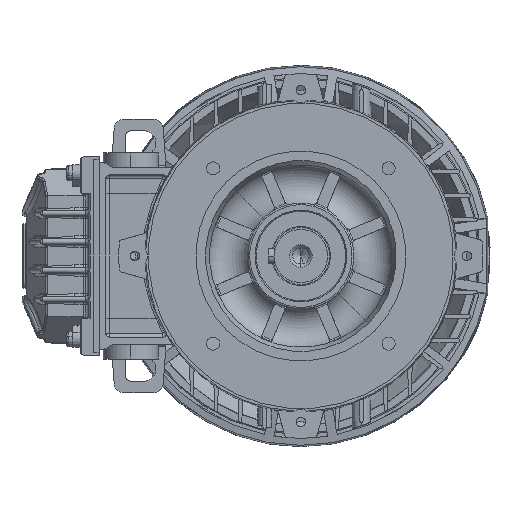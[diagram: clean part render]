
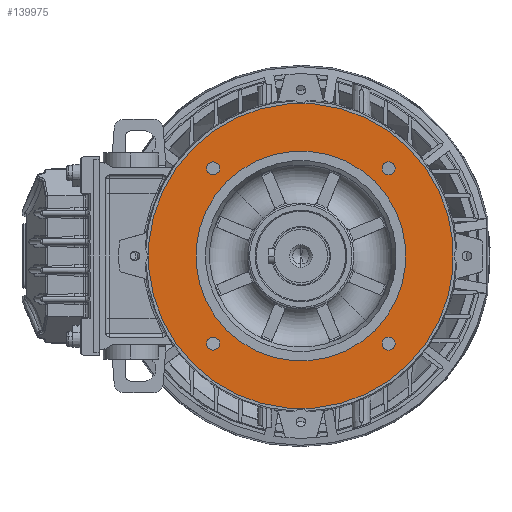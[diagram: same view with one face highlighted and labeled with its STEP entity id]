
A CAD part, left-side view. The second image highlights one B-rep face of the part: STEP entity #139975.
In plain terms, the highlighted planar face has unit normal (-1, 0, 0) as drawn and (0, 1, 0) by its records, which use the part's own axes.
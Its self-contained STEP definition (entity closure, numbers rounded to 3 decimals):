
#177 = VERTEX_POINT ( 'NONE', #18733 ) ;
#552 = CARTESIAN_POINT ( 'NONE',  ( -65., 44., 0. ) ) ;
#1836 = DIRECTION ( 'NONE',  ( 0., 1., 0. ) ) ;
#4132 = EDGE_CURVE ( 'NONE', #163591, #60480, #131373, .T. ) ;
#4499 = DIRECTION ( 'NONE',  ( 0., 0., 1. ) ) ;
#4687 = AXIS2_PLACEMENT_3D ( 'NONE', #47603, #137074, #60374 ) ;
#4785 = EDGE_LOOP ( 'NONE', ( #61782, #163298 ) ) ;
#5022 = FACE_BOUND ( 'NONE', #164887, .T. ) ;
#7217 = VERTEX_POINT ( 'NONE', #81614 ) ;
#7644 = EDGE_CURVE ( 'NONE', #7217, #163062, #157626, .T. ) ;
#8340 = DIRECTION ( 'NONE',  ( 0., 0., 1. ) ) ;
#8525 = CIRCLE ( 'NONE', #108342, 3.4 ) ;
#8664 = DIRECTION ( 'NONE',  ( 0., 0., 1. ) ) ;
#8821 = AXIS2_PLACEMENT_3D ( 'NONE', #58331, #147776, #71114 ) ;
#11698 = AXIS2_PLACEMENT_3D ( 'NONE', #66955, #156406, #79804 ) ;
#12395 = EDGE_LOOP ( 'NONE', ( #38095, #56122 ) ) ;
#13335 = DIRECTION ( 'NONE',  ( 0., 0., -1. ) ) ;
#15032 = AXIS2_PLACEMENT_3D ( 'NONE', #150493, #99578, #23101 ) ;
#18733 = CARTESIAN_POINT ( 'NONE',  ( 0., 44., 68.4 ) ) ;
#20343 = CARTESIAN_POINT ( 'NONE',  ( 65., 44., 0. ) ) ;
#20596 = VERTEX_POINT ( 'NONE', #87573 ) ;
#23084 = VERTEX_POINT ( 'NONE', #32377 ) ;
#23101 = DIRECTION ( 'NONE',  ( 0., 0., -1. ) ) ;
#25795 = ORIENTED_EDGE ( 'NONE', *, *, #98299, .F. ) ;
#29108 = ORIENTED_EDGE ( 'NONE', *, *, #137514, .T. ) ;
#32377 = CARTESIAN_POINT ( 'NONE',  ( -65., 44., 3.4 ) ) ;
#32592 = VERTEX_POINT ( 'NONE', #121200 ) ;
#33094 = CIRCLE ( 'NONE', #159216, 55. ) ;
#33192 = DIRECTION ( 'NONE',  ( 0., 0., -1. ) ) ;
#38095 = ORIENTED_EDGE ( 'NONE', *, *, #144108, .T. ) ;
#38479 = CIRCLE ( 'NONE', #104986, 55. ) ;
#38951 = FACE_BOUND ( 'NONE', #12395, .T. ) ;
#43769 = ORIENTED_EDGE ( 'NONE', *, *, #136094, .T. ) ;
#47603 = CARTESIAN_POINT ( 'NONE',  ( 0., 44., -65. ) ) ;
#47721 = CARTESIAN_POINT ( 'NONE',  ( 65., 44., -3.4 ) ) ;
#48214 = PLANE ( 'NONE',  #15032 ) ;
#48686 = CARTESIAN_POINT ( 'NONE',  ( 0., 44., 65. ) ) ;
#51153 = CARTESIAN_POINT ( 'NONE',  ( 65., 44., 0. ) ) ;
#51846 = CIRCLE ( 'NONE', #8821, 3.4 ) ;
#51996 = ORIENTED_EDGE ( 'NONE', *, *, #55882, .T. ) ;
#55882 = EDGE_CURVE ( 'NONE', #85455, #177, #8525, .T. ) ;
#56122 = ORIENTED_EDGE ( 'NONE', *, *, #112952, .T. ) ;
#56406 = EDGE_CURVE ( 'NONE', #70980, #20596, #68300, .T. ) ;
#58016 = VERTEX_POINT ( 'NONE', #66913 ) ;
#58331 = CARTESIAN_POINT ( 'NONE',  ( 0., 44., 65. ) ) ;
#60374 = DIRECTION ( 'NONE',  ( 0., 0., -1. ) ) ;
#60410 = CIRCLE ( 'NONE', #110699, 3.4 ) ;
#60480 = VERTEX_POINT ( 'NONE', #47721 ) ;
#61475 = DIRECTION ( 'NONE',  ( 0., 0., -1. ) ) ;
#61782 = ORIENTED_EDGE ( 'NONE', *, *, #56406, .T. ) ;
#63957 = DIRECTION ( 'NONE',  ( 0., 0., -1. ) ) ;
#66913 = CARTESIAN_POINT ( 'NONE',  ( 0., 44., 55. ) ) ;
#66955 = CARTESIAN_POINT ( 'NONE',  ( -65., 44., 0. ) ) ;
#67777 = ORIENTED_EDGE ( 'NONE', *, *, #7644, .T. ) ;
#68300 = CIRCLE ( 'NONE', #4687, 3.4 ) ;
#69558 = CIRCLE ( 'NONE', #11698, 3.4 ) ;
#70352 = VERTEX_POINT ( 'NONE', #95271 ) ;
#70980 = VERTEX_POINT ( 'NONE', #72609 ) ;
#71114 = DIRECTION ( 'NONE',  ( 0., 0., -1. ) ) ;
#72078 = CARTESIAN_POINT ( 'NONE',  ( 0., 44., 61.6 ) ) ;
#72293 = DIRECTION ( 'NONE',  ( 0., -1., 0. ) ) ;
#72609 = CARTESIAN_POINT ( 'NONE',  ( 0., 44., -68.4 ) ) ;
#76310 = AXIS2_PLACEMENT_3D ( 'NONE', #552, #89783, #13335 ) ;
#78219 = CARTESIAN_POINT ( 'NONE',  ( 0., 44., 0. ) ) ;
#78529 = EDGE_CURVE ( 'NONE', #20596, #70980, #60410, .T. ) ;
#79804 = DIRECTION ( 'NONE',  ( 0., 0., -1. ) ) ;
#80866 = DIRECTION ( 'NONE',  ( 0., 1., 0. ) ) ;
#81614 = CARTESIAN_POINT ( 'NONE',  ( 0., 44., -80. ) ) ;
#82477 = ORIENTED_EDGE ( 'NONE', *, *, #141377, .F. ) ;
#84719 = DIRECTION ( 'NONE',  ( 0., 1., 0. ) ) ;
#84872 = FACE_BOUND ( 'NONE', #103929, .T. ) ;
#85051 = DIRECTION ( 'NONE',  ( 0., 1., 0. ) ) ;
#85455 = VERTEX_POINT ( 'NONE', #72078 ) ;
#87573 = CARTESIAN_POINT ( 'NONE',  ( 0., 44., -61.6 ) ) ;
#89783 = DIRECTION ( 'NONE',  ( 0., -1., 0. ) ) ;
#91102 = DIRECTION ( 'NONE',  ( 0., 0., 1. ) ) ;
#92831 = ORIENTED_EDGE ( 'NONE', *, *, #4132, .T. ) ;
#93582 = AXIS2_PLACEMENT_3D ( 'NONE', #157476, #80866, #4499 ) ;
#95271 = CARTESIAN_POINT ( 'NONE',  ( 0., 44., -55. ) ) ;
#98299 = EDGE_CURVE ( 'NONE', #70352, #58016, #33094, .T. ) ;
#99578 = DIRECTION ( 'NONE',  ( 0., -1., 0. ) ) ;
#102865 = FACE_OUTER_BOUND ( 'NONE', #139146, .T. ) ;
#102916 = ORIENTED_EDGE ( 'NONE', *, *, #106299, .T. ) ;
#103929 = EDGE_LOOP ( 'NONE', ( #51996, #102916 ) ) ;
#104986 = AXIS2_PLACEMENT_3D ( 'NONE', #161666, #85051, #8664 ) ;
#106299 = EDGE_CURVE ( 'NONE', #177, #85455, #51846, .T. ) ;
#106852 = FACE_BOUND ( 'NONE', #131189, .T. ) ;
#108342 = AXIS2_PLACEMENT_3D ( 'NONE', #48686, #138147, #61475 ) ;
#109663 = DIRECTION ( 'NONE',  ( 0., -1., 0. ) ) ;
#110699 = AXIS2_PLACEMENT_3D ( 'NONE', #148951, #72293, #161768 ) ;
#112952 = EDGE_CURVE ( 'NONE', #23084, #32592, #69558, .T. ) ;
#121200 = CARTESIAN_POINT ( 'NONE',  ( -65., 44., -3.4 ) ) ;
#121375 = CARTESIAN_POINT ( 'NONE',  ( 0., 44., 80. ) ) ;
#124148 = AXIS2_PLACEMENT_3D ( 'NONE', #51153, #140624, #63957 ) ;
#129350 = AXIS2_PLACEMENT_3D ( 'NONE', #78219, #1836, #91102 ) ;
#131189 = EDGE_LOOP ( 'NONE', ( #82477, #25795 ) ) ;
#131373 = CIRCLE ( 'NONE', #124148, 3.4 ) ;
#136094 = EDGE_CURVE ( 'NONE', #60480, #163591, #153934, .T. ) ;
#136977 = FACE_BOUND ( 'NONE', #4785, .T. ) ;
#137074 = DIRECTION ( 'NONE',  ( 0., -1., 0. ) ) ;
#137514 = EDGE_CURVE ( 'NONE', #163062, #7217, #139570, .T. ) ;
#137987 = CIRCLE ( 'NONE', #76310, 3.4 ) ;
#138147 = DIRECTION ( 'NONE',  ( 0., -1., 0. ) ) ;
#139146 = EDGE_LOOP ( 'NONE', ( #29108, #67777 ) ) ;
#139570 = CIRCLE ( 'NONE', #129350, 80. ) ;
#139975 = ADVANCED_FACE ( 'NONE', ( #38951, #84872, #5022, #136977, #106852, #102865 ), #48214, .F. ) ;
#140624 = DIRECTION ( 'NONE',  ( 0., -1., 0. ) ) ;
#141377 = EDGE_CURVE ( 'NONE', #58016, #70352, #38479, .T. ) ;
#144108 = EDGE_CURVE ( 'NONE', #32592, #23084, #137987, .T. ) ;
#147776 = DIRECTION ( 'NONE',  ( 0., -1., 0. ) ) ;
#148951 = CARTESIAN_POINT ( 'NONE',  ( 0., 44., -65. ) ) ;
#150493 = CARTESIAN_POINT ( 'NONE',  ( 55., 44., 0. ) ) ;
#153934 = CIRCLE ( 'NONE', #162352, 3.4 ) ;
#156406 = DIRECTION ( 'NONE',  ( 0., -1., 0. ) ) ;
#157476 = CARTESIAN_POINT ( 'NONE',  ( 0., 44., 0. ) ) ;
#157626 = CIRCLE ( 'NONE', #93582, 80. ) ;
#159216 = AXIS2_PLACEMENT_3D ( 'NONE', #161329, #84719, #8340 ) ;
#161329 = CARTESIAN_POINT ( 'NONE',  ( 0., 44., 0. ) ) ;
#161666 = CARTESIAN_POINT ( 'NONE',  ( 0., 44., 0. ) ) ;
#161768 = DIRECTION ( 'NONE',  ( 0., 0., -1. ) ) ;
#162352 = AXIS2_PLACEMENT_3D ( 'NONE', #20343, #109663, #33192 ) ;
#163062 = VERTEX_POINT ( 'NONE', #121375 ) ;
#163280 = CARTESIAN_POINT ( 'NONE',  ( 65., 44., 3.4 ) ) ;
#163298 = ORIENTED_EDGE ( 'NONE', *, *, #78529, .T. ) ;
#163591 = VERTEX_POINT ( 'NONE', #163280 ) ;
#164887 = EDGE_LOOP ( 'NONE', ( #43769, #92831 ) ) ;
